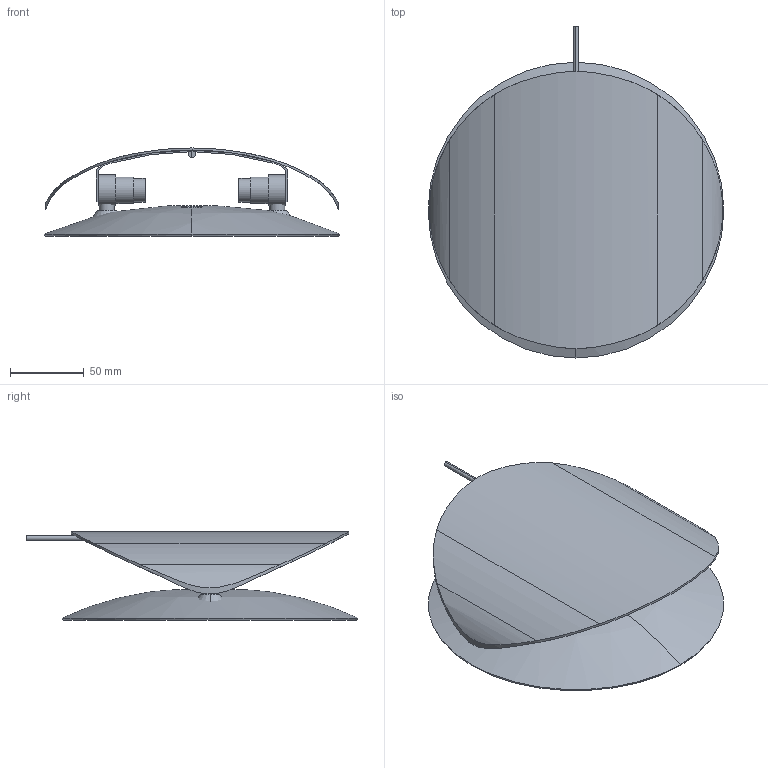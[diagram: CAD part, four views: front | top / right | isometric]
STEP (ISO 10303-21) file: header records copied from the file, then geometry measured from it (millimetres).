
FILE_DESCRIPTION(/* description */ (''),/* implementation_level */ '2;1');
FILE_NAME(/* name */ 'C:\Users\FrancoSartori\Documents\FARO\01_En Proceso\000_DOC SIN PROCESAR\00_OVO\03_Publicación\62105_3d.stp',/* time_stamp */ '2023-02-13T16:49:48+01:00',/* author */ ('FrancoSartori'),/* organization */ (''),/* preprocessor_version */ 'ST-DEVELOPER v19.2',/* originating_system */ 'AutoCAD Mechanical',/* authorisation */ '');
FILE_SCHEMA (('AUTOMOTIVE_DESIGN { 1 0 10303 214 3 1 1 }'));
Length unit declared in the file: millimetre
Products named in the file (2): Product; 62105_ - BOARD-463435-Export
Assembly tree (1 placements, depth 2):
  Product
    62105_ - BOARD-463435-Export
Bounding box: 200.05 x 224.47 x 59.58 mm (x, y, z)
Volume: 125553.8 mm3; surface area: 147938.7 mm2
Topology: 8 solids, 8 shells, 136 faces, 286 edges, 165 vertices
Faces by surface type: cylinder 56, plane 54, cone 16, bspline 10
Entity records: 4388 total; most frequent: CARTESIAN_POINT 1535, DIRECTION 581, ORIENTED_EDGE 566, EDGE_CURVE 283, AXIS2_PLACEMENT_3D 224, VERTEX_POINT 160, EDGE_LOOP 137, FACE_OUTER_BOUND 136
